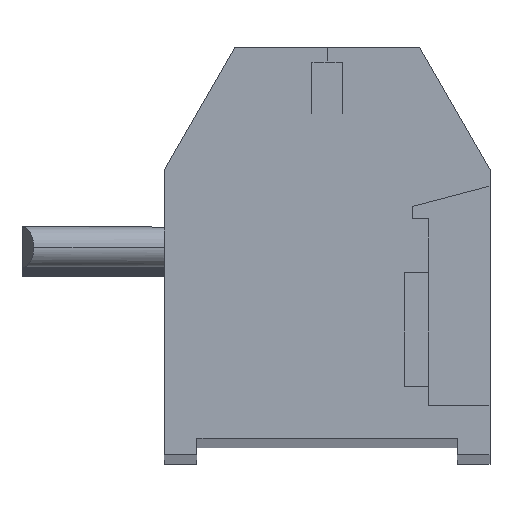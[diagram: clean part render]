
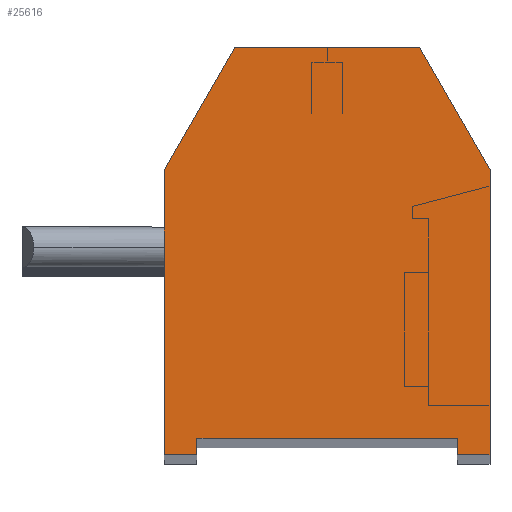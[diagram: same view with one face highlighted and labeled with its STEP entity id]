
A CAD part, top view. The second image highlights one B-rep face of the part: STEP entity #25616.
In plain terms, the highlighted planar face has unit normal (0, 0, 1).
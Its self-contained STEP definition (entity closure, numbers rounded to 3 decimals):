
#1506 = CARTESIAN_POINT ( 'NONE',  ( -4., 7., 0. ) ) ;
#1507 = CARTESIAN_POINT ( 'NONE',  ( -4., 4.667, 0. ) ) ;
#1508 = CARTESIAN_POINT ( 'NONE',  ( -4., 2.333, 0. ) ) ;
#1509 = CARTESIAN_POINT ( 'NONE',  ( -4., 0., 0. ) ) ;
#1510 = CARTESIAN_POINT ( 'NONE',  ( -4., 7., 0. ) ) ;
#1511 = B_SPLINE_CURVE_WITH_KNOTS ( 'NONE', 3,
 ( #1509, #1508, #1507, #1506 ),
 .UNSPECIFIED., .F., .F.,
 ( 4, 4 ),
 ( 0., 1. ),
 .UNSPECIFIED. ) ;
#1546 = DIRECTION ( 'NONE',  ( -1., 0., 0. ) ) ;
#1547 = VECTOR ( 'NONE', #1546, 1000. ) ;
#1548 = CARTESIAN_POINT ( 'NONE',  ( 0., 0.4, 0. ) ) ;
#1549 = LINE ( 'NONE', #1548, #1547 ) ;
#1571 = CARTESIAN_POINT ( 'NONE',  ( 4., 0., 0. ) ) ;
#1572 = CARTESIAN_POINT ( 'NONE',  ( 4., 2.333, 0. ) ) ;
#1573 = CARTESIAN_POINT ( 'NONE',  ( 4., 4.667, 0. ) ) ;
#1574 = CARTESIAN_POINT ( 'NONE',  ( 4., 7., 0. ) ) ;
#1577 = B_SPLINE_CURVE_WITH_KNOTS ( 'NONE', 3,
 ( #1574, #1573, #1572, #1571 ),
 .UNSPECIFIED., .F., .F.,
 ( 4, 4 ),
 ( 0., 1. ),
 .UNSPECIFIED. ) ;
#1583 = CARTESIAN_POINT ( 'NONE',  ( 4., 7., 0. ) ) ;
#12248 = DIRECTION ( 'NONE',  ( -0.5, -0.866, 0. ) ) ;
#12249 = VECTOR ( 'NONE', #12248, 1000. ) ;
#12250 = CARTESIAN_POINT ( 'NONE',  ( -3.134, 8.5, 0. ) ) ;
#12251 = LINE ( 'NONE', #12250, #12249 ) ;
#12252 = CARTESIAN_POINT ( 'NONE',  ( -2.268, 10., 0. ) ) ;
#12253 = DIRECTION ( 'NONE',  ( -1., 0., 0. ) ) ;
#12254 = VECTOR ( 'NONE', #12253, 1000. ) ;
#12255 = CARTESIAN_POINT ( 'NONE',  ( 0., 10., 0. ) ) ;
#12256 = LINE ( 'NONE', #12255, #12254 ) ;
#12259 = CARTESIAN_POINT ( 'NONE',  ( 2.268, 10., 0. ) ) ;
#12260 = DIRECTION ( 'NONE',  ( -0.5, 0.866, 0. ) ) ;
#12261 = VECTOR ( 'NONE', #12260, 1000. ) ;
#12262 = CARTESIAN_POINT ( 'NONE',  ( 3.134, 8.5, 0. ) ) ;
#12263 = LINE ( 'NONE', #12262, #12261 ) ;
#12336 = DIRECTION ( 'NONE',  ( -1., 0., 0. ) ) ;
#12337 = DIRECTION ( 'NONE',  ( 0., 0., -1. ) ) ;
#12338 = CARTESIAN_POINT ( 'NONE',  ( 4., 0., 0. ) ) ;
#12339 = AXIS2_PLACEMENT_3D ( 'NONE', #12338, #12337, #12336 ) ;
#12347 = PLANE ( 'NONE',  #12339 ) ;
#12348 = FACE_OUTER_BOUND ( 'NONE', #25473, .T. ) ;
#15728 = EDGE_CURVE ( 'NONE', #49376, #15729, #1511, .T. ) ;
#15729 = VERTEX_POINT ( 'NONE', #1510 ) ;
#15845 = EDGE_CURVE ( 'NONE', #79524, #78401, #1549, .T. ) ;
#16003 = VERTEX_POINT ( 'NONE', #1583 ) ;
#16005 = EDGE_CURVE ( 'NONE', #16003, #79650, #1577, .T. ) ;
#25473 = EDGE_LOOP ( 'NONE', ( #25474, #25476, #25477, #25578, #25580, #25582, #25588, #25595, #25599, #25601 ) ) ;
#25474 = ORIENTED_EDGE ( 'NONE', *, *, #78411, .T. ) ;
#25476 = ORIENTED_EDGE ( 'NONE', *, *, #15845, .F. ) ;
#25477 = ORIENTED_EDGE ( 'NONE', *, *, #79589, .T. ) ;
#25578 = ORIENTED_EDGE ( 'NONE', *, *, #79617, .T. ) ;
#25580 = ORIENTED_EDGE ( 'NONE', *, *, #16005, .F. ) ;
#25582 = ORIENTED_EDGE ( 'NONE', *, *, #25584, .T. ) ;
#25584 = EDGE_CURVE ( 'NONE', #16003, #25586, #12263, .T. ) ;
#25586 = VERTEX_POINT ( 'NONE', #12259 ) ;
#25588 = ORIENTED_EDGE ( 'NONE', *, *, #25590, .T. ) ;
#25590 = EDGE_CURVE ( 'NONE', #25586, #25593, #12256, .T. ) ;
#25593 = VERTEX_POINT ( 'NONE', #12252 ) ;
#25595 = ORIENTED_EDGE ( 'NONE', *, *, #25597, .T. ) ;
#25597 = EDGE_CURVE ( 'NONE', #25593, #15729, #12251, .T. ) ;
#25599 = ORIENTED_EDGE ( 'NONE', *, *, #15728, .F. ) ;
#25601 = ORIENTED_EDGE ( 'NONE', *, *, #49375, .T. ) ;
#25616 = ADVANCED_FACE ( 'NONE', ( #12348 ), #12347, .F. ) ;
#49373 = VERTEX_POINT ( 'NONE', #66534 ) ;
#49375 = EDGE_CURVE ( 'NONE', #49376, #49373, #66532, .T. ) ;
#49376 = VERTEX_POINT ( 'NONE', #66528 ) ;
#66528 = CARTESIAN_POINT ( 'NONE',  ( -4., 0., 0. ) ) ;
#66529 = DIRECTION ( 'NONE',  ( 1., 0., 0. ) ) ;
#66530 = VECTOR ( 'NONE', #66529, 1000. ) ;
#66531 = CARTESIAN_POINT ( 'NONE',  ( -3.6, 0., 0. ) ) ;
#66532 = LINE ( 'NONE', #66531, #66530 ) ;
#66534 = CARTESIAN_POINT ( 'NONE',  ( -3.2, 0., 0. ) ) ;
#73553 = CARTESIAN_POINT ( 'NONE',  ( -3.2, 0.4, 0. ) ) ;
#73606 = DIRECTION ( 'NONE',  ( 0., 1., 0. ) ) ;
#73607 = VECTOR ( 'NONE', #73606, 1000. ) ;
#73608 = CARTESIAN_POINT ( 'NONE',  ( -3.2, 0.2, 0. ) ) ;
#73609 = LINE ( 'NONE', #73608, #73607 ) ;
#76377 = CARTESIAN_POINT ( 'NONE',  ( 3.2, 0.4, 0. ) ) ;
#76437 = CARTESIAN_POINT ( 'NONE',  ( 3.2, 0., 0. ) ) ;
#76559 = DIRECTION ( 'NONE',  ( 0., -1., 0. ) ) ;
#76560 = VECTOR ( 'NONE', #76559, 1000. ) ;
#76561 = CARTESIAN_POINT ( 'NONE',  ( 3.2, 0.2, 0. ) ) ;
#76562 = LINE ( 'NONE', #76561, #76560 ) ;
#76645 = DIRECTION ( 'NONE',  ( 1., 0., 0. ) ) ;
#76646 = VECTOR ( 'NONE', #76645, 1000. ) ;
#76647 = CARTESIAN_POINT ( 'NONE',  ( 3.6, 0., 0. ) ) ;
#76648 = LINE ( 'NONE', #76647, #76646 ) ;
#76882 = CARTESIAN_POINT ( 'NONE',  ( 4., 0., 0. ) ) ;
#78401 = VERTEX_POINT ( 'NONE', #73553 ) ;
#78411 = EDGE_CURVE ( 'NONE', #49373, #78401, #73609, .T. ) ;
#79524 = VERTEX_POINT ( 'NONE', #76377 ) ;
#79547 = VERTEX_POINT ( 'NONE', #76437 ) ;
#79589 = EDGE_CURVE ( 'NONE', #79524, #79547, #76562, .T. ) ;
#79617 = EDGE_CURVE ( 'NONE', #79547, #79650, #76648, .T. ) ;
#79650 = VERTEX_POINT ( 'NONE', #76882 ) ;
